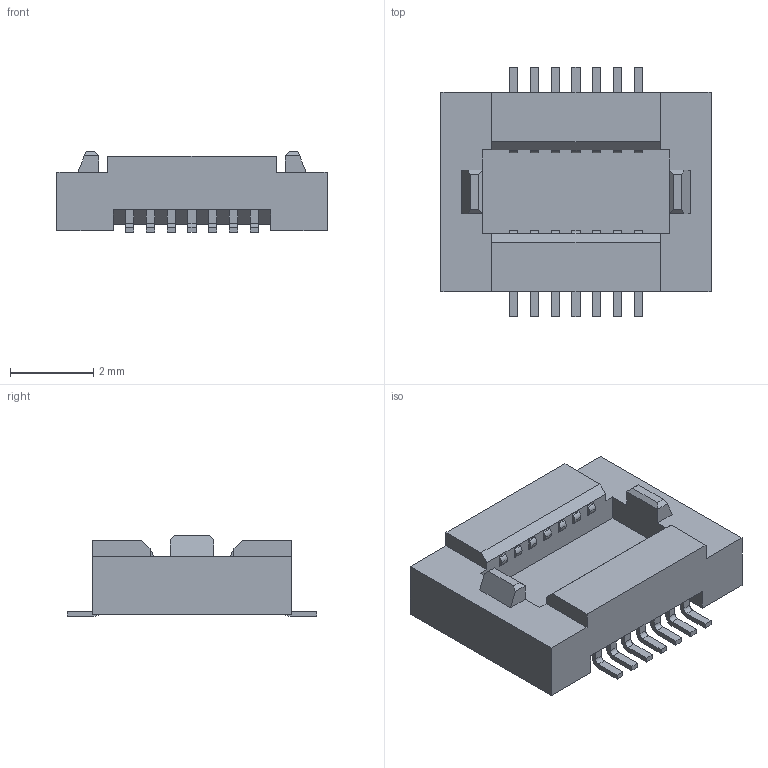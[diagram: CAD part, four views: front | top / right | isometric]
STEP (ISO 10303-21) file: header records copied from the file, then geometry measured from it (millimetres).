
FILE_DESCRIPTION(('OneSpaceDesigner STEP Export'),'2;1');
FILE_NAME('50169-01401-001.stp','2010-02-03T16:04:24',(''),(''),'OneSpace Designer STEP processor for AP214 (Solid Model)','OneSpace Designer 13.01 05-Feb-2005 (C) CoCreate Software GmbH','');
FILE_SCHEMA(('AUTOMOTIVE_DESIGN { 1 0 10303 214 1 1 1 1 }'));
Length unit declared in the file: millimetre
Products named in the file (1): 50169-01401-001
Bounding box: 6.5 x 5.99 x 1.94 mm (x, y, z)
Volume: 38.9 mm3; surface area: 122.8 mm2
Topology: 1 solids, 1 shells, 252 faces, 662 edges, 440 vertices
Faces by surface type: plane 182, cylinder 70
Entity records: 7401 total; most frequent: ORIENTED_EDGE 1324, CARTESIAN_POINT 1284, DIRECTION 1166, EDGE_CURVE 662, VECTOR 522, LINE 522, VERTEX_POINT 440, AXIS2_PLACEMENT_3D 322
